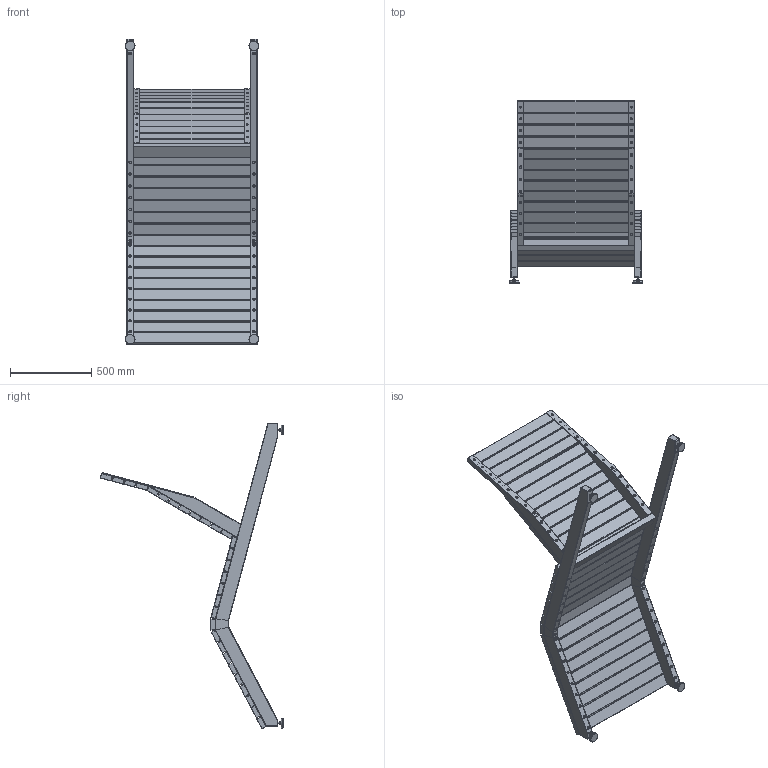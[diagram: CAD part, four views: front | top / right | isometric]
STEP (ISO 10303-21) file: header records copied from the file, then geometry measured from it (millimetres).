
FILE_DESCRIPTION (( 'STEP AP203' ), '1' );
FILE_NAME ('NLCHASM1.step', '2019-08-24T22:01:13', ( '' ), ( '' ), 'SwSTEP 2.0', 'SolidWorks 2019', '' );
FILE_SCHEMA (( 'CONFIG_CONTROL_DESIGN' ));
Length unit declared in the file: millimetre
Products named in the file (20): NLCHASM2; NLCH3; countersunk flat head cross recess screw_din_DIN EN ISO 7046-1 - M6 x 25 - Z - 25N; NLCHASM3; NLCH4; pan head cross recess screw_din_DIN EN ISO 7045 - M6 x 25 - Z - 25N; gn_30-60-m10-50-a1-s; gn_30-60-m10-50-a1-s_01; NLCH1_Default<As Machined>; NLCH5; weld nut 01_din_DIN 929-M10-N; NLCH6; NLCH2; gn_30-60-m10-50-a1-s_02; NLCHASM1
Assembly tree (114 placements, depth 3):
  NLCHASM1
    NLCH1_Default<As Machined>
    NLCH2  x2
    NLCHASM2
      NLCH3
      weld nut 01_din_DIN 929-M10-N
    NLCHASM3
      NLCH4
      weld nut 01_din_DIN 929-M10-N
    gn_30-60-m10-50-a1-s
      gn_30-60-m10-50-a1-s_01
      gn_30-60-m10-50-a1-s_02
    gn_30-60-m10-50-a1-s
      gn_30-60-m10-50-a1-s_01
      gn_30-60-m10-50-a1-s_02
    NLCH5  x17
    NLCH6  x12
    NLCHASM2
      NLCH3
      weld nut 01_din_DIN 929-M10-N
    NLCHASM3
      NLCH4
      weld nut 01_din_DIN 929-M10-N
    gn_30-60-m10-50-a1-s
      gn_30-60-m10-50-a1-s_01
      gn_30-60-m10-50-a1-s_02
    gn_30-60-m10-50-a1-s
      gn_30-60-m10-50-a1-s_01
      gn_30-60-m10-50-a1-s_02
    countersunk flat head cross recess screw_din_DIN EN ISO 7046-1 - M6 x 25 - Z - 25N  x8
    pan head cross recess screw_din_DIN EN ISO 7045 - M6 x 25 - Z - 25N  x50
Bounding box: 820 x 1125.54 x 1877.45 mm (x, y, z)
Volume: 49720939.7 mm3; surface area: 7307161 mm2
Topology: 114 solids, 114 shells, 3433 faces, 8287 edges, 4804 vertices
Faces by surface type: plane 1484, cylinder 929, cone 444, sphere 332, torus 216, bspline 28
Entity records: 23685 total; most frequent: CARTESIAN_POINT 3825, DIRECTION 3379, ORIENTED_EDGE 2998, EDGE_CURVE 1499, AXIS2_PLACEMENT_3D 1316, VERTEX_POINT 963, EDGE_LOOP 806, VECTOR 747
